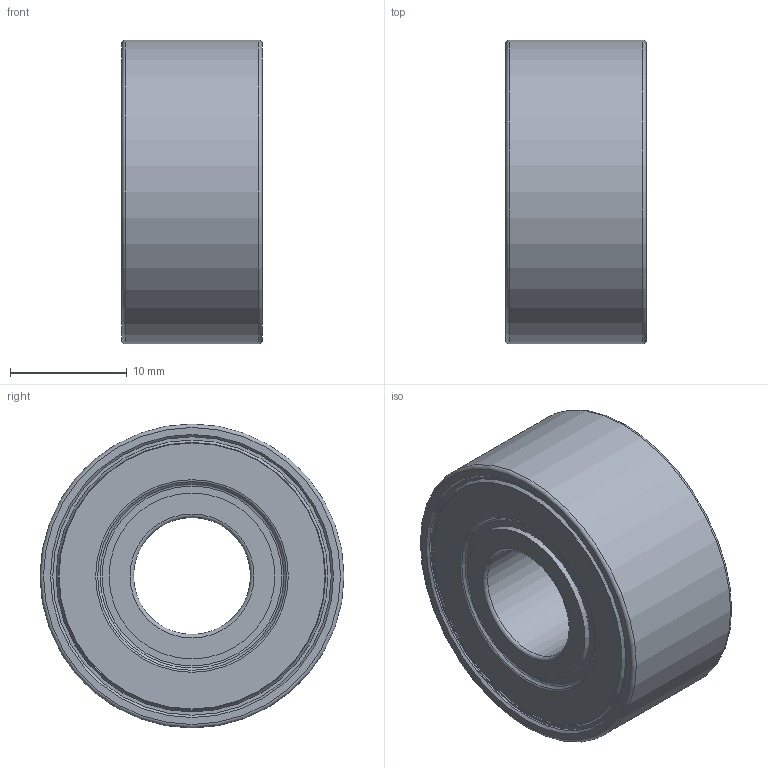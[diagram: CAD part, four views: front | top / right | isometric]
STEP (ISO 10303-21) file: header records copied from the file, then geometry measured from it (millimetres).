
FILE_DESCRIPTION(/* description */ (''),/* implementation_level */ '2;1');
FILE_NAME(/* name */ 'C:\MOJE SUBORY\03_Doplnenie 3D modelov\63000-2RSR\63000-2rsr.stp',/* time_stamp */ '2020-11-13T13:09:23+01:00',/* author */ ('OUPIONTEKM'),/* organization */ (''),/* preprocessor_version */ 'ST-DEVELOPER v18.1',/* originating_system */ 'Autodesk Inventor 2021',/* authorisation */ '');
FILE_SCHEMA (('AUTOMOTIVE_DESIGN { 1 0 10303 214 3 1 1 }'));
Length unit declared in the file: millimetre
Products named in the file (7): 63000; 63000-02; 63000-ball; 63000-cage; 63000-01; seal_rz; seal_rsr_63000_MIR
Assembly tree (14 placements, depth 2):
  63000
    63000-02
    63000-ball  x8
    63000-cage  x2
    63000-01
    seal_rz
    seal_rsr_63000_MIR
Bounding box: 12 x 26 x 26 mm (x, y, z)
Volume: 3388.5 mm3; surface area: 5594 mm2
Topology: 14 solids, 14 shells, 144 faces, 452 edges, 294 vertices
Faces by surface type: plane 50, sphere 40, torus 18, cylinder 18, cone 18
Full cylindrical faces by diameter (mm): 10 x1, 14.02 x2, 14.19 x2, 16.571 x2, 19.429 x2, 21.56 x2, 21.81 x2, 23.81 x2, 23.921 x2, 26 x1
Entity records: 4243 total; most frequent: CARTESIAN_POINT 1243, DIRECTION 668, ORIENTED_EDGE 526, AXIS2_PLACEMENT_3D 317, EDGE_CURVE 263, CIRCLE 193, VERTEX_POINT 180, EDGE_LOOP 121
